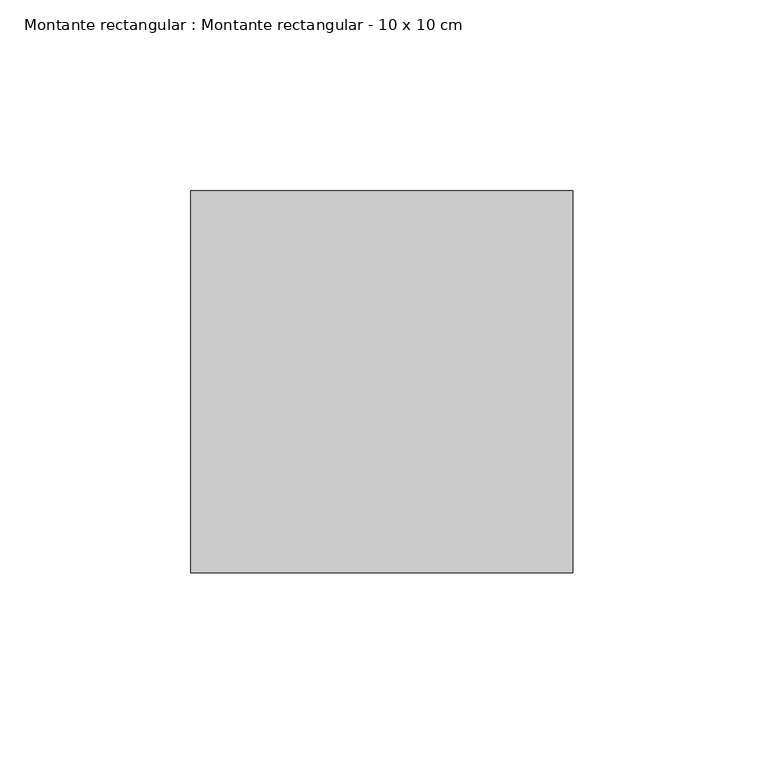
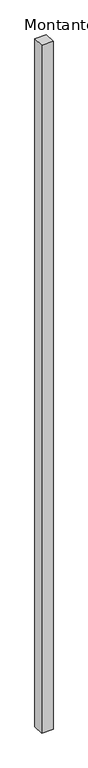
"""IFC4 building model written with IfcOpenShell, lengths in millimetres: member geometry, Montante rectangular : Montante rectangular - 10 x 10 cm."""

from ifc_helpers import new_model, si_unit, frame, origin, place, context, project, spatial, polyline, outline, extrude, source, transform, mapped, element, save


def montante_rectangular_montante_rectangular_10_x_10_cm_79bb80e4(model_context):
    return source(origin(), model_context, "Body", "SweptSolid", [
        extrude(outline(polyline([(-100.0, -50.0), (-100.0, 50.0), (0.0, 50.0), (0.0, -50.0), (-100.0, -50.0)])), frame((0.0, 0.0, -6339.8890788), z_axis=(0.0, 0.0, 1.0), x_axis=(1.0, 0.0, 0.0)), (0.0, 0.0, 1.0), 6339.8890788),
    ])


if __name__ == "__main__":
    model = new_model("IFC4")
    model_context = context("Model", 3, world=origin())
    ifc_project = project(units=[si_unit("LENGTHUNIT", "METRE", prefix="MILLI")], contexts=[model_context])
    site = spatial("IfcSite", under=ifc_project)
    building = spatial("IfcBuilding", under=site)
    placement = place(None, origin())
    montante_rectangular_montante_rectangular_10_x_10_cm_shape = montante_rectangular_montante_rectangular_10_x_10_cm_79bb80e4(model_context)
    element("IfcMember", 1, ObjectType="Montante rectangular : Montante rectangular - 10 x 10 cm", at=placement, inside=building, context=model_context, shape_type="MappedRepresentation", body=[
        mapped(montante_rectangular_montante_rectangular_10_x_10_cm_shape, transform((0.0, 0.0, 0.0), x_axis=(1.0, 0.0, 0.0), y_axis=(0.0, 1.0, 0.0), z_axis=(0.0, 0.0, 1.0))),
    ])
    save(model, "model.ifc")
